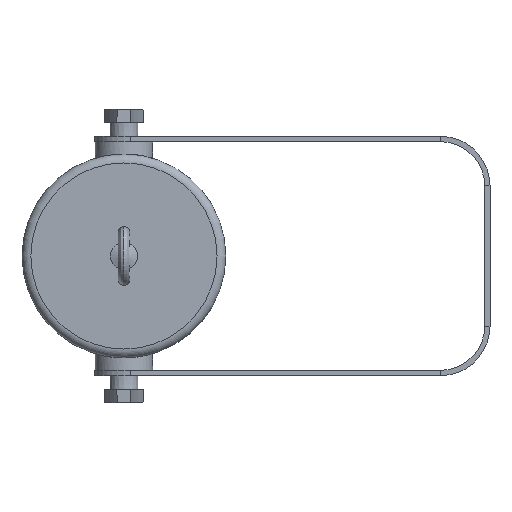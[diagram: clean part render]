
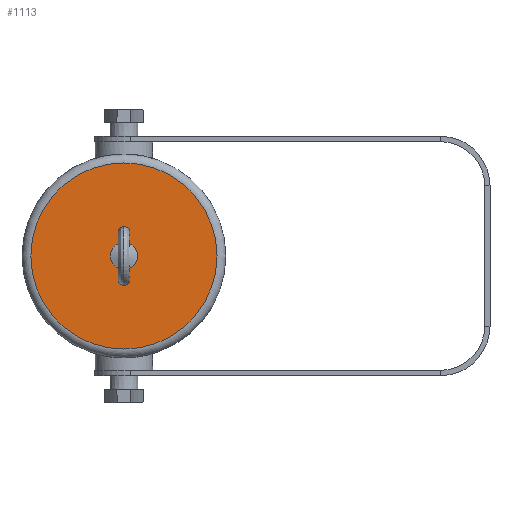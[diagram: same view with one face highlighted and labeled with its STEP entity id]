
A CAD part, front view. The second image highlights one B-rep face of the part: STEP entity #1113.
In plain terms, the highlighted planar face has unit normal (0, -1, 0) as drawn and (1, 0, 0) by its records, which use the part's own axes.
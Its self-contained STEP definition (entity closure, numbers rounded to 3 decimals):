
#84=FACE_BOUND('',#264,.T.);
#117=PLANE('',#1261);
#183=FACE_OUTER_BOUND('',#263,.T.);
#263=EDGE_LOOP('',(#1030,#1031));
#264=EDGE_LOOP('',(#1032));
#442=CIRCLE('',#1241,7.65);
#453=CIRCLE('',#1258,52.5);
#455=CIRCLE('',#1260,52.5);
#547=VERTEX_POINT('',#2015);
#564=VERTEX_POINT('',#3810);
#565=VERTEX_POINT('',#3811);
#690=EDGE_CURVE('',#547,#547,#442,.T.);
#719=EDGE_CURVE('',#564,#565,#453,.T.);
#721=EDGE_CURVE('',#565,#564,#455,.T.);
#1030=ORIENTED_EDGE('',*,*,#719,.F.);
#1031=ORIENTED_EDGE('',*,*,#721,.F.);
#1032=ORIENTED_EDGE('',*,*,#690,.T.);
#1113=ADVANCED_FACE('',(#183,#84),#117,.T.);
#1241=AXIS2_PLACEMENT_3D('',#2017,#1529,#1530);
#1258=AXIS2_PLACEMENT_3D('',#3812,#1565,#1566);
#1260=AXIS2_PLACEMENT_3D('',#3814,#1569,#1570);
#1261=AXIS2_PLACEMENT_3D('',#3815,#1571,#1572);
#1529=DIRECTION('center_axis',(-1.,0.,0.));
#1530=DIRECTION('ref_axis',(0.,0.,1.));
#1565=DIRECTION('center_axis',(-1.,0.,0.));
#1566=DIRECTION('ref_axis',(0.,1.,0.));
#1569=DIRECTION('center_axis',(-1.,0.,0.));
#1570=DIRECTION('ref_axis',(0.,1.,0.));
#1571=DIRECTION('center_axis',(1.,0.,0.));
#1572=DIRECTION('ref_axis',(0.,1.,0.));
#2015=CARTESIAN_POINT('',(244.,0.,-7.65));
#2017=CARTESIAN_POINT('Origin',(244.,0.,0.));
#3810=CARTESIAN_POINT('',(244.,-52.5,0.));
#3811=CARTESIAN_POINT('',(244.,0.,52.5));
#3812=CARTESIAN_POINT('Origin',(244.,0.,0.));
#3814=CARTESIAN_POINT('Origin',(244.,0.,0.));
#3815=CARTESIAN_POINT('Origin',(244.,0.,0.));
